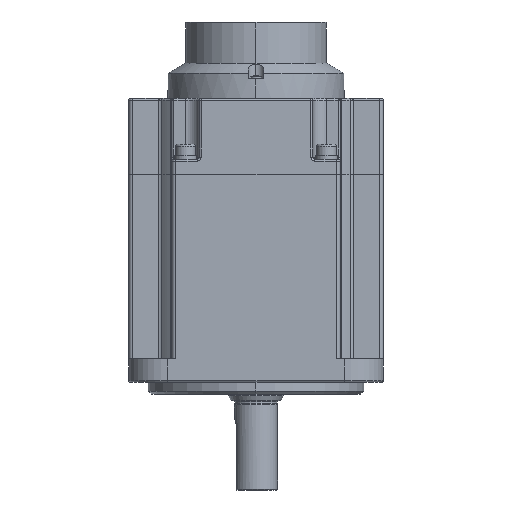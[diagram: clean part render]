
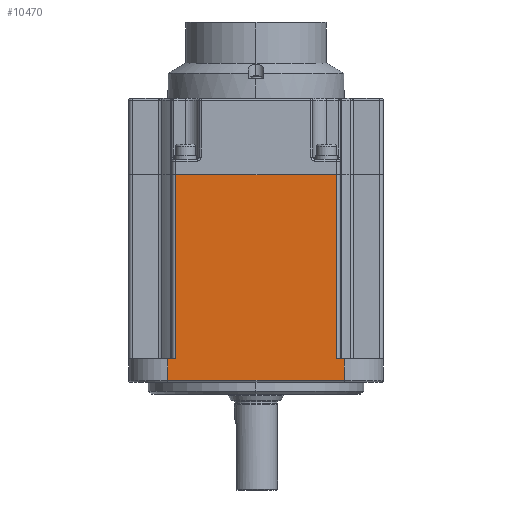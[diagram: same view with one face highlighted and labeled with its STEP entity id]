
A CAD part, left-side view. The second image highlights one B-rep face of the part: STEP entity #10470.
In plain terms, the highlighted planar face has unit normal (-1, 0, 0).
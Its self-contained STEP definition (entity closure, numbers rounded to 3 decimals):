
#5709=DIRECTION('',(0.,0.,-1.));
#5710=VECTOR('',#5709,11.);
#5711=CARTESIAN_POINT('',(-62.71,-44.6,
2.238));
#5712=LINE('',#5711,#5710);
#5717=DIRECTION('',(0.,1.,0.));
#5718=VECTOR('',#5717,4.);
#5719=CARTESIAN_POINT('',(-62.71,41.4,2.238));
#5720=LINE('',#5719,#5718);
#5721=DIRECTION('',(0.,1.,0.));
#5722=VECTOR('',#5721,82.);
#5723=CARTESIAN_POINT('',(-62.71,-40.6,
96.238));
#5724=LINE('',#5723,#5722);
#5725=DIRECTION('',(0.,1.,0.));
#5726=VECTOR('',#5725,4.);
#5727=CARTESIAN_POINT('',(-62.71,-44.6,
2.238));
#5728=LINE('',#5727,#5726);
#5733=DIRECTION('',(0.,0.,1.));
#5734=VECTOR('',#5733,11.);
#5735=CARTESIAN_POINT('',(-62.71,45.4,
-8.762));
#5736=LINE('',#5735,#5734);
#6576=DIRECTION('',(0.,0.,-1.));
#6577=VECTOR('',#6576,94.);
#6578=CARTESIAN_POINT('',(-62.71,-40.6,
96.238));
#6579=LINE('',#6578,#6577);
#6632=DIRECTION('',(0.,0.,1.));
#6633=VECTOR('',#6632,94.);
#6634=CARTESIAN_POINT('',(-62.71,41.4,2.238));
#6635=LINE('',#6634,#6633);
#7666=DIRECTION('',(0.,1.,0.));
#7667=VECTOR('',#7666,90.);
#7668=CARTESIAN_POINT('',(-62.71,-44.6,
-8.762));
#7669=LINE('',#7668,#7667);
#9076=CARTESIAN_POINT('',(-62.71,-40.6,
2.238));
#9078=VERTEX_POINT('',#9076);
#9110=CARTESIAN_POINT('',(-62.71,45.4,2.238));
#9112=VERTEX_POINT('',#9110);
#9355=CARTESIAN_POINT('',(-62.71,-44.6,
2.238));
#9356=VERTEX_POINT('',#9355);
#9503=CARTESIAN_POINT('',(-62.71,-40.6,
96.238));
#9504=VERTEX_POINT('',#9503);
#9565=CARTESIAN_POINT('',(-62.71,-44.6,
-8.762));
#9567=VERTEX_POINT('',#9565);
#9652=CARTESIAN_POINT('',(-62.71,45.4,
-8.762));
#9653=VERTEX_POINT('',#9652);
#9742=CARTESIAN_POINT('',(-62.71,41.4,2.238));
#9743=VERTEX_POINT('',#9742);
#9798=CARTESIAN_POINT('',(-62.71,41.4,96.238));
#9799=VERTEX_POINT('',#9798);
#10448=CARTESIAN_POINT('',(-62.71,-54.6,
2.238));
#10449=DIRECTION('',(1.,0.,0.));
#10450=DIRECTION('',(0.,1.,0.));
#10451=AXIS2_PLACEMENT_3D('',#10448,#10449,#10450);
#10452=PLANE('',#10451);
#10454=ORIENTED_EDGE('',*,*,#10453,.T.);
#10456=ORIENTED_EDGE('',*,*,#10455,.F.);
#10458=ORIENTED_EDGE('',*,*,#10457,.T.);
#10460=ORIENTED_EDGE('',*,*,#10459,.F.);
#10462=ORIENTED_EDGE('',*,*,#10461,.T.);
#10464=ORIENTED_EDGE('',*,*,#10463,.F.);
#10465=ORIENTED_EDGE('',*,*,#10438,.T.);
#10467=ORIENTED_EDGE('',*,*,#10466,.T.);
#10468=EDGE_LOOP('',(#10454,#10456,#10458,#10460,#10462,#10464,#10465,#10467));
#10469=FACE_OUTER_BOUND('',#10468,.F.);
#10470=ADVANCED_FACE('',(#10469),#10452,.F.);
#10438=EDGE_CURVE('',#9356,#9567,#5712,.T.);
#10453=EDGE_CURVE('',#9653,#9112,#5736,.T.);
#10455=EDGE_CURVE('',#9743,#9112,#5720,.T.);
#10457=EDGE_CURVE('',#9743,#9799,#6635,.T.);
#10459=EDGE_CURVE('',#9504,#9799,#5724,.T.);
#10461=EDGE_CURVE('',#9504,#9078,#6579,.T.);
#10463=EDGE_CURVE('',#9356,#9078,#5728,.T.);
#10466=EDGE_CURVE('',#9567,#9653,#7669,.T.);
